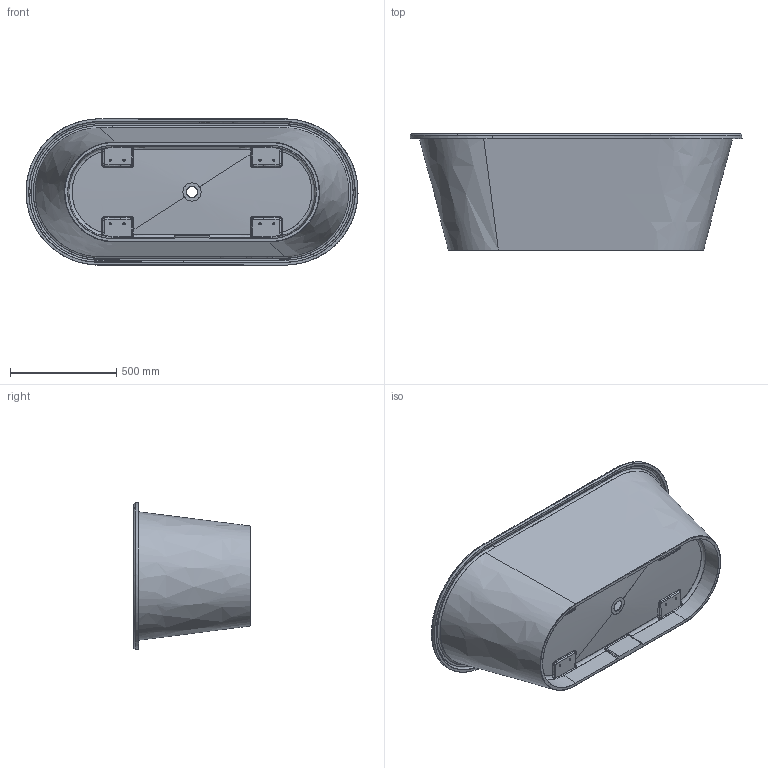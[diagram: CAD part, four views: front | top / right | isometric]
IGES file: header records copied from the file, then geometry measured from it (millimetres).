
Start section: SolidWorks IGES file using analytic representation for surfaces
Global section: file name: O:\BATHTUBS FILES\TIFFANY  1560 FC179161.igs; native system: SolidWorks 2012; preprocessor: SolidWorks 2012; author: zbigniewp; date: 130508.110210; units: millimetre
Bounding box: 1562.04 x 550 x 687.78 mm (x, y, z)
Surface area: 4940599.1 mm2 (no closed solid volume)
Topology: 0 solids, 0 shells, 180 faces, 3406 edges, 3404 vertices
Faces by surface type: bspline 150, revolution 30
